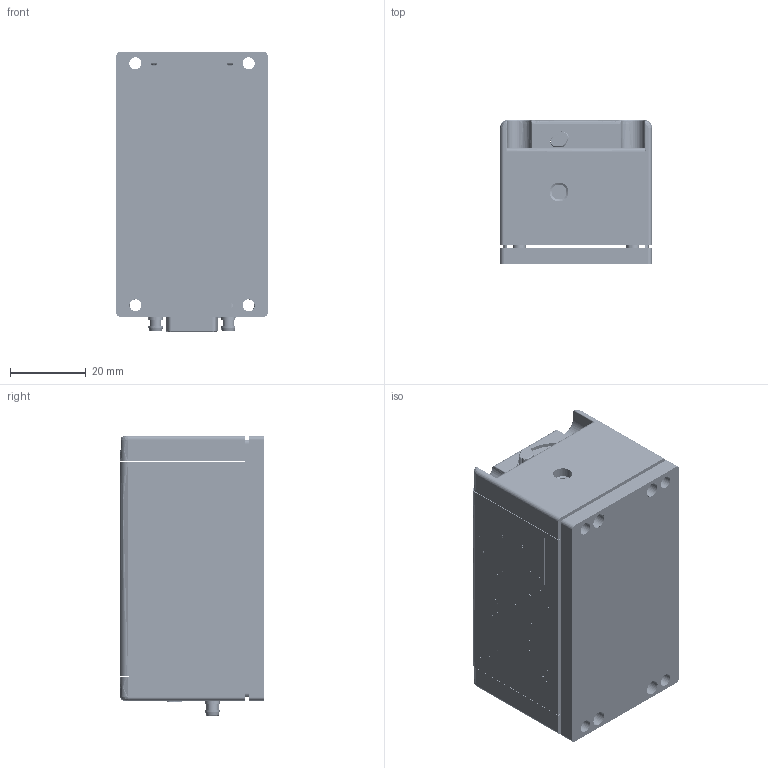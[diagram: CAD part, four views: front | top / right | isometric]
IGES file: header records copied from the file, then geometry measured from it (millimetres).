
Start section: SolidWorks IGES file using analytic representation for surfaces
Global section: file name: N:\POR\Eng\SolidWorksVault\FILES_DAN_LEWIS\Catalog files\OBIS Coherent web site\OBIS Head and Emission Indicator\OBIS Laser.IGS; native system: SolidWorks 2012; preprocessor: SolidWorks 2012; author: lewisd; date: 120118.112302; units: inch
Bounding box: 40.3 x 38.17 x 74.06 mm (x, y, z)
Surface area: 20958.6 mm2 (no closed solid volume)
Topology: 0 solids, 0 shells, 2898 faces, 66583 edges, 66583 vertices
Faces by surface type: bspline 2650, revolution 248
